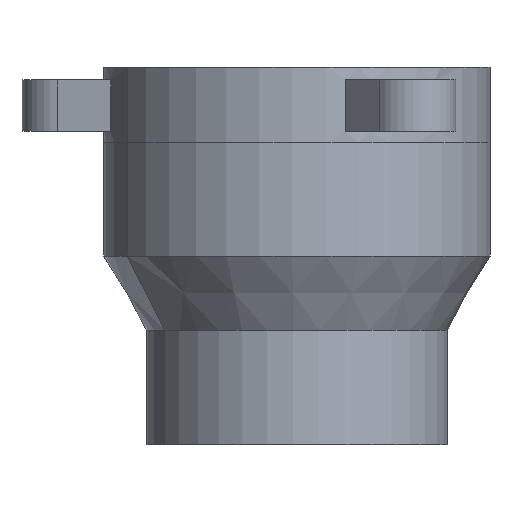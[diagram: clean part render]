
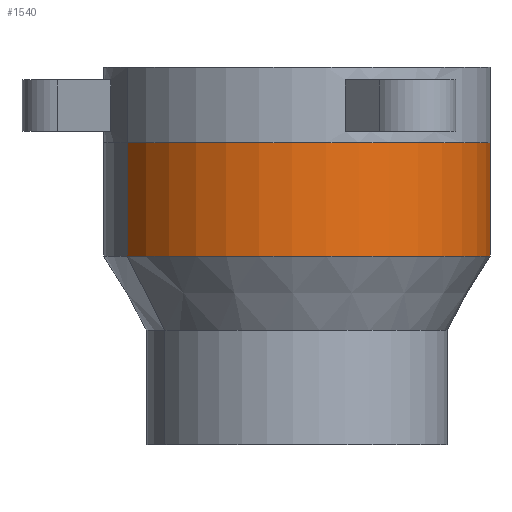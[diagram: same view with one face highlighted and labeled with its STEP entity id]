
A CAD part, left-side view. The second image highlights one B-rep face of the part: STEP entity #1540.
In plain terms, the highlighted cylindrical face has radius 45 mm (diameter 90 mm), a partial arc.
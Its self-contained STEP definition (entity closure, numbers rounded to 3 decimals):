
#503=CARTESIAN_POINT('Vertex',(-21.574,39.491,-44.)) ;
#510=CARTESIAN_POINT('Vertex',(21.574,-39.491,-44.)) ;
#742=CARTESIAN_POINT('Axis2P3D Location',(0.,0.,-44.)) ;
#1478=CARTESIAN_POINT('Axis2P3D Location',(0.,0.,-44.)) ;
#1487=CARTESIAN_POINT('Vertex',(21.574,-39.491,-17.645)) ;
#1503=CARTESIAN_POINT('Vertex',(-21.574,39.491,-17.645)) ;
#1506=CARTESIAN_POINT('Axis2P3D Location',(0.,0.,-17.645)) ;
#1524=CARTESIAN_POINT('Line Origine',(-21.574,39.491,-22.)) ;
#1529=CARTESIAN_POINT('Line Origine',(21.574,-39.491,-22.)) ;
#743=DIRECTION('Axis2P3D Direction',(0.,0.,1.)) ;
#1479=DIRECTION('Axis2P3D Direction',(0.,0.,1.)) ;
#1480=DIRECTION('Axis2P3D XDirection',(-0.479,0.878,0.)) ;
#1507=DIRECTION('Axis2P3D Direction',(0.,0.,1.)) ;
#1525=DIRECTION('Vector Direction',(0.,0.,1.)) ;
#1530=DIRECTION('Vector Direction',(0.,0.,1.)) ;
#744=AXIS2_PLACEMENT_3D('Circle Axis2P3D',#742,#743,$) ;
#1481=AXIS2_PLACEMENT_3D('Cylinder Axis2P3D',#1478,#1479,#1480) ;
#1508=AXIS2_PLACEMENT_3D('Circle Axis2P3D',#1506,#1507,$) ;
#1535=ORIENTED_EDGE('',*,*,#1528,.F.) ;
#1536=ORIENTED_EDGE('',*,*,#746,.T.) ;
#1537=ORIENTED_EDGE('',*,*,#1533,.T.) ;
#1538=ORIENTED_EDGE('',*,*,#1510,.F.) ;
#1526=VECTOR('Line Direction',#1525,1.) ;
#1531=VECTOR('Line Direction',#1530,1.) ;
#1540=ADVANCED_FACE('PartBody',(#1539),#1482,.T.) ;
#745=CIRCLE('generated circle',#744,45.) ;
#1509=CIRCLE('generated circle',#1508,45.) ;
#1482=CYLINDRICAL_SURFACE('generated cylinder',#1481,45.) ;
#746=EDGE_CURVE('',#504,#511,#745,.T.) ;
#1510=EDGE_CURVE('',#1504,#1488,#1509,.T.) ;
#1528=EDGE_CURVE('',#504,#1504,#1527,.T.) ;
#1533=EDGE_CURVE('',#511,#1488,#1532,.T.) ;
#1534=EDGE_LOOP('',(#1535,#1536,#1537,#1538)) ;
#1539=FACE_OUTER_BOUND('',#1534,.T.) ;
#1527=LINE('Line',#1524,#1526) ;
#1532=LINE('Line',#1529,#1531) ;
#504=VERTEX_POINT('',#503) ;
#511=VERTEX_POINT('',#510) ;
#1488=VERTEX_POINT('',#1487) ;
#1504=VERTEX_POINT('',#1503) ;
